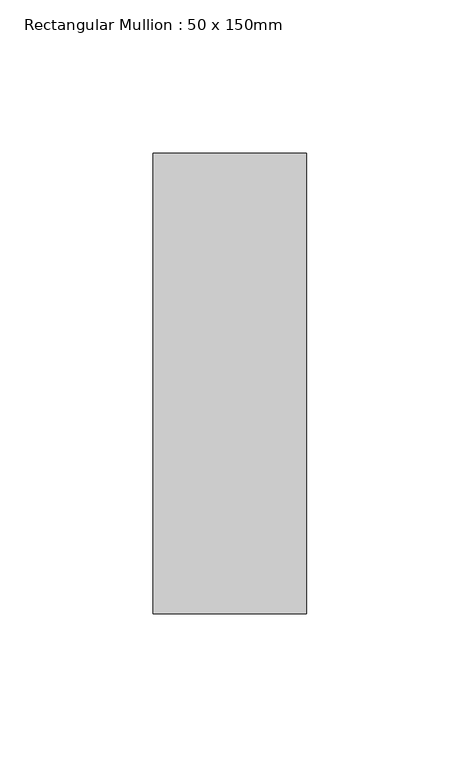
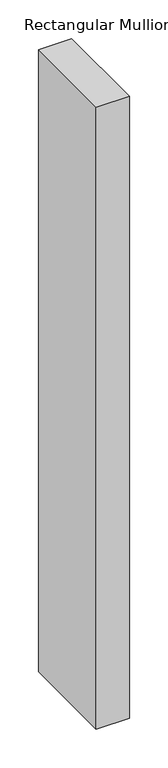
"""IFC4 building model written with IfcOpenShell, lengths in millimetres: member geometry, Rectangular Mullion : 50 x 150mm."""

from ifc_helpers import new_model, si_unit, frame, origin, place, context, project, spatial, polyline, outline, extrude, source, transform, mapped, element, save


def rectangular_mullion_50_x_150mm_676c024c(model_context):
    return source(origin(), model_context, "Body", "SweptSolid", [
        extrude(outline(polyline([(25.0, 75.0), (25.0, -75.0), (-25.0, -75.0), (-25.0, 75.0), (25.0, 75.0)])), frame((0.0, 0.0, -984.5048885), z_axis=(0.0, 0.0, 1.0), x_axis=(1.0, 0.0, 0.0)), (0.0, 0.0, 1.0), 984.5048885),
    ])


if __name__ == "__main__":
    model = new_model("IFC4")
    model_context = context("Model", 3, world=origin())
    ifc_project = project(units=[si_unit("LENGTHUNIT", "METRE", prefix="MILLI")], contexts=[model_context])
    site = spatial("IfcSite", under=ifc_project)
    building = spatial("IfcBuilding", under=site)
    placement = place(None, origin())
    rectangular_mullion_50_x_150mm_shape = rectangular_mullion_50_x_150mm_676c024c(model_context)
    element("IfcMember", 1, ObjectType="Rectangular Mullion : 50 x 150mm", at=placement, inside=building, context=model_context, shape_type="MappedRepresentation", body=[
        mapped(rectangular_mullion_50_x_150mm_shape, transform((0.0, 0.0, 0.0), x_axis=(1.0, 0.0, 0.0), y_axis=(0.0, 1.0, 0.0), z_axis=(0.0, 0.0, 1.0))),
    ])
    save(model, "model.ifc")
